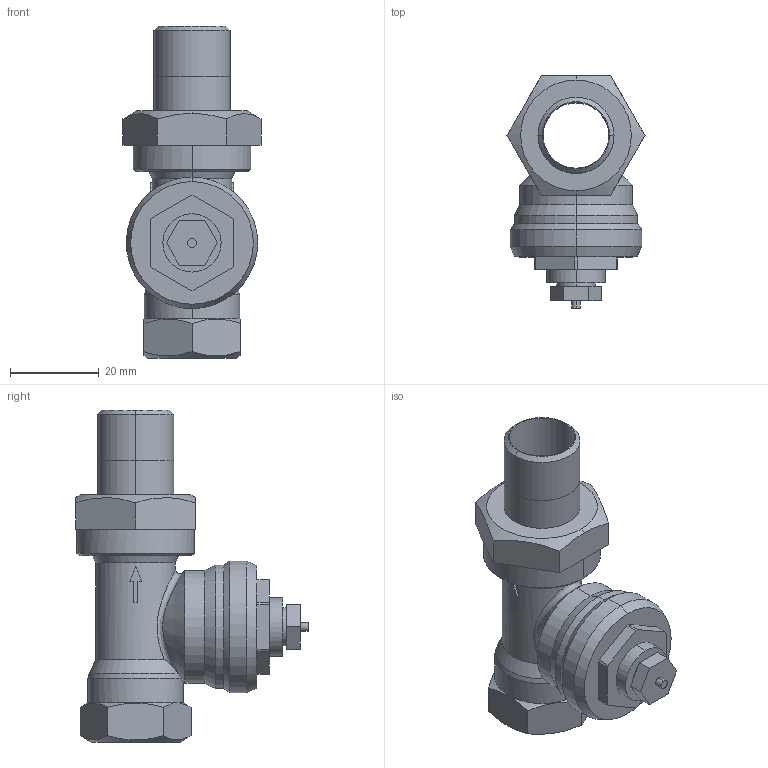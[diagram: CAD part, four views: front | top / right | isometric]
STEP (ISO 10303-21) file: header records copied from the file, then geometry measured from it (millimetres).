
FILE_DESCRIPTION((''),'2;1');
FILE_NAME('000050.stp','2006-09-29T17:14:20',(''),(''),'Mechanical Desktop 2006','Mechanical Desktop 2006',', , ');
FILE_SCHEMA(('AUTOMOTIVE_DESIGN { 1 2 10303 214 0 1 1 1 }'));
Length unit declared in the file: millimetre
Products named in the file (1): Product
Bounding box: 31.18 x 52.5 x 75 mm (x, y, z)
Volume: 25085.1 mm3; surface area: 13343.6 mm2
Topology: 10 solids, 10 shells, 122 faces, 280 edges, 179 vertices
Faces by surface type: plane 55, cylinder 30, cone 26, bspline 11
Entity records: 3965 total; most frequent: CARTESIAN_POINT 1184, DIRECTION 562, ORIENTED_EDGE 560, EDGE_CURVE 280, AXIS2_PLACEMENT_3D 208, VERTEX_POINT 179, VECTOR 146, LINE 146
